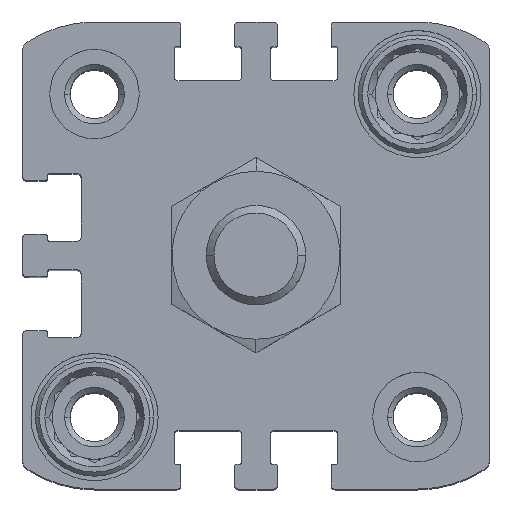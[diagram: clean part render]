
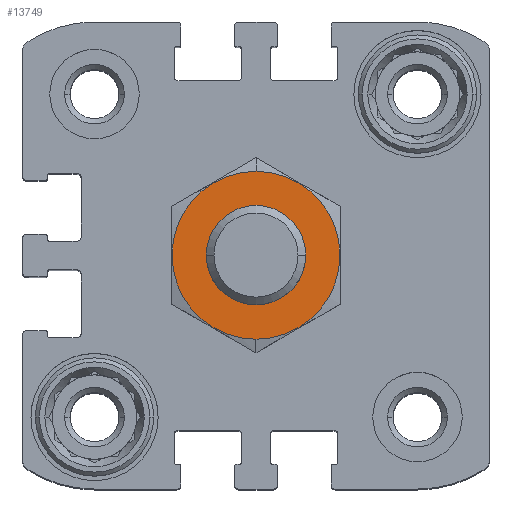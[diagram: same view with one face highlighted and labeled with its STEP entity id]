
A CAD part, top view. The second image highlights one B-rep face of the part: STEP entity #13749.
In plain terms, the highlighted planar face has unit normal (0, 0, 1) as drawn and (0, 1, 0) by its records, which use the part's own axes.
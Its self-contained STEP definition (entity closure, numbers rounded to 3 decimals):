
#428 = FACE_BOUND ( 'NONE', #10063, .T. ) ;
#821 = VERTEX_POINT ( 'NONE', #13624 ) ;
#1077 = DIRECTION ( 'NONE',  ( 0., 1., 0. ) ) ;
#1118 = DIRECTION ( 'NONE',  ( 0., -1., 0. ) ) ;
#1249 = DIRECTION ( 'NONE',  ( 0., 1., 0. ) ) ;
#2593 = ORIENTED_EDGE ( 'NONE', *, *, #4116, .F. ) ;
#3211 = ORIENTED_EDGE ( 'NONE', *, *, #9015, .F. ) ;
#3603 = CARTESIAN_POINT ( 'NONE',  ( 0., 0., 0. ) ) ;
#3682 = AXIS2_PLACEMENT_3D ( 'NONE', #3603, #12495, #4931 ) ;
#4116 = EDGE_CURVE ( 'NONE', #11374, #7291, #14554, .T. ) ;
#4623 = EDGE_CURVE ( 'NONE', #14457, #821, #15299, .T. ) ;
#4808 = CARTESIAN_POINT ( 'NONE',  ( 0., 0., -5. ) ) ;
#4886 = DIRECTION ( 'NONE',  ( 0., -1., 0. ) ) ;
#4931 = DIRECTION ( 'NONE',  ( 0., 0., -1. ) ) ;
#7291 = VERTEX_POINT ( 'NONE', #9096 ) ;
#8225 = ORIENTED_EDGE ( 'NONE', *, *, #16118, .F. ) ;
#8814 = CARTESIAN_POINT ( 'NONE',  ( 0., 0., 0. ) ) ;
#8837 = EDGE_LOOP ( 'NONE', ( #8225, #9549 ) ) ;
#8854 = CARTESIAN_POINT ( 'NONE',  ( 0., 0., 0. ) ) ;
#8951 = AXIS2_PLACEMENT_3D ( 'NONE', #9003, #1249, #10248 ) ;
#9003 = CARTESIAN_POINT ( 'NONE',  ( 0., 0., 0. ) ) ;
#9015 = EDGE_CURVE ( 'NONE', #7291, #11374, #11885, .T. ) ;
#9096 = CARTESIAN_POINT ( 'NONE',  ( 0., 0., 5. ) ) ;
#9176 = AXIS2_PLACEMENT_3D ( 'NONE', #12464, #4886, #13657 ) ;
#9370 = AXIS2_PLACEMENT_3D ( 'NONE', #8854, #1118, #10133 ) ;
#9549 = ORIENTED_EDGE ( 'NONE', *, *, #4623, .F. ) ;
#10063 = EDGE_LOOP ( 'NONE', ( #3211, #2593 ) ) ;
#10095 = DIRECTION ( 'NONE',  ( 0., 0., 1. ) ) ;
#10133 = DIRECTION ( 'NONE',  ( 0., 0., -1. ) ) ;
#10135 = CIRCLE ( 'NONE', #3682, 8.45 ) ;
#10248 = DIRECTION ( 'NONE',  ( 0., 0., 1. ) ) ;
#10266 = FACE_OUTER_BOUND ( 'NONE', #8837, .T. ) ;
#11374 = VERTEX_POINT ( 'NONE', #4808 ) ;
#11885 = CIRCLE ( 'NONE', #16224, 5. ) ;
#12464 = CARTESIAN_POINT ( 'NONE',  ( 0., 0., 0. ) ) ;
#12495 = DIRECTION ( 'NONE',  ( 0., -1., 0. ) ) ;
#13624 = CARTESIAN_POINT ( 'NONE',  ( 0., 0., -8.45 ) ) ;
#13657 = DIRECTION ( 'NONE',  ( 0., 0., -1. ) ) ;
#13749 = ADVANCED_FACE ( 'NONE', ( #428, #10266 ), #14873, .F. ) ;
#14457 = VERTEX_POINT ( 'NONE', #15528 ) ;
#14554 = CIRCLE ( 'NONE', #8951, 5. ) ;
#14873 = PLANE ( 'NONE',  #9370 ) ;
#15299 = CIRCLE ( 'NONE', #9176, 8.45 ) ;
#15528 = CARTESIAN_POINT ( 'NONE',  ( 0., 0., 8.45 ) ) ;
#16118 = EDGE_CURVE ( 'NONE', #821, #14457, #10135, .T. ) ;
#16224 = AXIS2_PLACEMENT_3D ( 'NONE', #8814, #1077, #10095 ) ;
